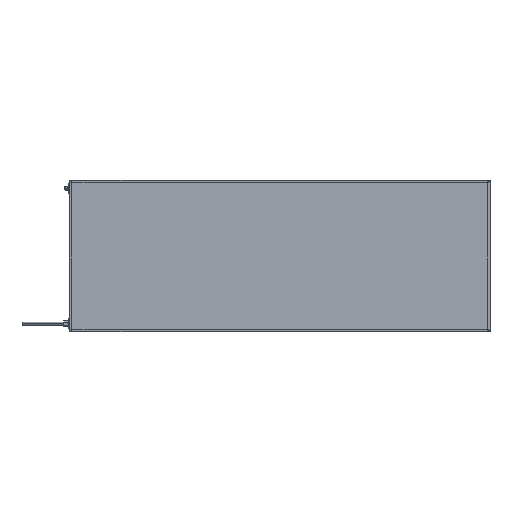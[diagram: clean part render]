
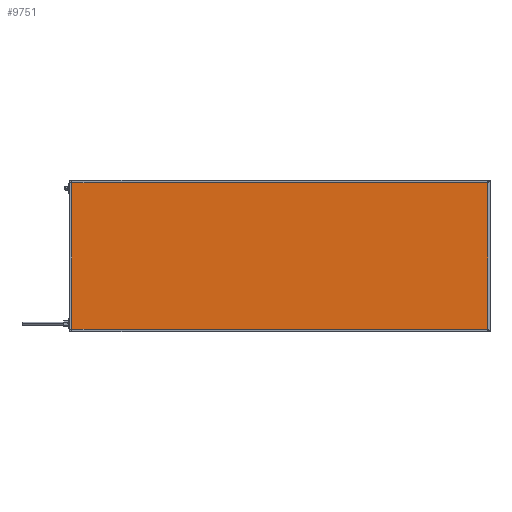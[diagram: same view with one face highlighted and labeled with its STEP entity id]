
A CAD part, top view. The second image highlights one B-rep face of the part: STEP entity #9751.
In plain terms, the highlighted planar face has unit normal (0, 0, 1).
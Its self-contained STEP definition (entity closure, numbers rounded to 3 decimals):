
#835 = CARTESIAN_POINT ( 'NONE',  ( 1396., 4., 41.85 ) ) ;
#1913 = EDGE_CURVE ( 'NONE', #13364, #2346, #9828, .T. ) ;
#2072 = PLANE ( 'NONE',  #11434 ) ;
#2240 = LINE ( 'NONE', #12085, #10875 ) ;
#2346 = VERTEX_POINT ( 'NONE', #9534 ) ;
#2870 = CARTESIAN_POINT ( 'NONE',  ( 4., 4., 41.85 ) ) ;
#3128 = ORIENTED_EDGE ( 'NONE', *, *, #14121, .T. ) ;
#3525 = DIRECTION ( 'NONE',  ( 0., 1., 0. ) ) ;
#5294 = VERTEX_POINT ( 'NONE', #2870 ) ;
#5653 = VECTOR ( 'NONE', #11993, 1000. ) ;
#5979 = EDGE_CURVE ( 'NONE', #2346, #5294, #15040, .T. ) ;
#6734 = DIRECTION ( 'NONE',  ( 0., -1., 0. ) ) ;
#8190 = CARTESIAN_POINT ( 'NONE',  ( 0., 496., 41.85 ) ) ;
#9440 = CARTESIAN_POINT ( 'NONE',  ( 0., 4., 41.85 ) ) ;
#9456 = VERTEX_POINT ( 'NONE', #835 ) ;
#9534 = CARTESIAN_POINT ( 'NONE',  ( 4., 496., 41.85 ) ) ;
#9751 = ADVANCED_FACE ( 'NONE', ( #10457 ), #2072, .F. ) ;
#9828 = LINE ( 'NONE', #8190, #12466 ) ;
#10457 = FACE_OUTER_BOUND ( 'NONE', #14292, .T. ) ;
#10875 = VECTOR ( 'NONE', #3525, 1000. ) ;
#11088 = ORIENTED_EDGE ( 'NONE', *, *, #5979, .T. ) ;
#11111 = DIRECTION ( 'NONE',  ( -1., 0., 0. ) ) ;
#11434 = AXIS2_PLACEMENT_3D ( 'NONE', #17574, #16024, #13551 ) ;
#11993 = DIRECTION ( 'NONE',  ( 1., 0., 0. ) ) ;
#12085 = CARTESIAN_POINT ( 'NONE',  ( 1396., 0., 41.85 ) ) ;
#12466 = VECTOR ( 'NONE', #11111, 1000. ) ;
#13361 = ORIENTED_EDGE ( 'NONE', *, *, #17880, .T. ) ;
#13364 = VERTEX_POINT ( 'NONE', #17254 ) ;
#13551 = DIRECTION ( 'NONE',  ( -1., 0., 0. ) ) ;
#13721 = ORIENTED_EDGE ( 'NONE', *, *, #1913, .T. ) ;
#13844 = CARTESIAN_POINT ( 'NONE',  ( 4., 0., 41.85 ) ) ;
#14121 = EDGE_CURVE ( 'NONE', #5294, #9456, #14829, .T. ) ;
#14292 = EDGE_LOOP ( 'NONE', ( #13361, #13721, #11088, #3128 ) ) ;
#14829 = LINE ( 'NONE', #9440, #5653 ) ;
#15040 = LINE ( 'NONE', #13844, #17184 ) ;
#16024 = DIRECTION ( 'NONE',  ( 0., 0., -1. ) ) ;
#17184 = VECTOR ( 'NONE', #6734, 1000. ) ;
#17254 = CARTESIAN_POINT ( 'NONE',  ( 1396., 496., 41.85 ) ) ;
#17574 = CARTESIAN_POINT ( 'NONE',  ( 0., 0., 41.85 ) ) ;
#17880 = EDGE_CURVE ( 'NONE', #9456, #13364, #2240, .T. ) ;
